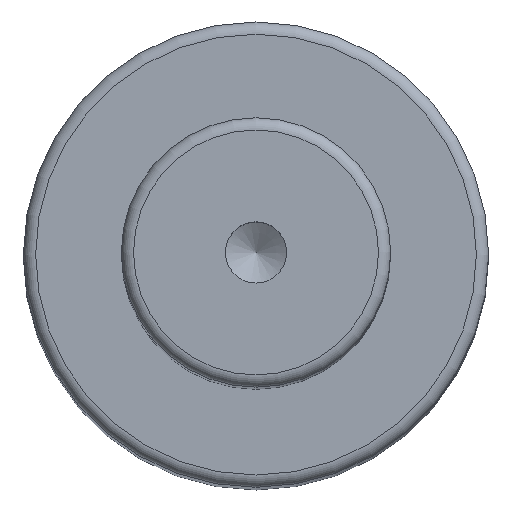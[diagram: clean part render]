
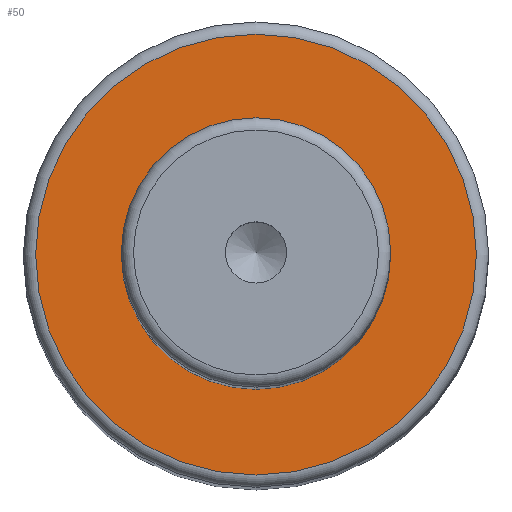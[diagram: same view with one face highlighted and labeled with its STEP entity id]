
A CAD part, top view. The second image highlights one B-rep face of the part: STEP entity #50.
In plain terms, the highlighted planar face has unit normal (0, 0, 1).
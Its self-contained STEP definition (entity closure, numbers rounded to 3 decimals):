
#40=PLANE('',#179);
#50=ADVANCED_FACE('',(#72,#73),#40,.F.);
#72=FACE_BOUND('',#96,.T.);
#73=FACE_BOUND('',#97,.T.);
#96=EDGE_LOOP('',(#118));
#97=EDGE_LOOP('',(#119));
#118=ORIENTED_EDGE('',*,*,#149,.F.);
#119=ORIENTED_EDGE('',*,*,#148,.T.);
#135=VERTEX_POINT('',#256);
#136=VERTEX_POINT('',#259);
#148=EDGE_CURVE('',#135,#135,#159,.T.);
#149=EDGE_CURVE('',#136,#136,#160,.T.);
#159=CIRCLE('',#176,11.);
#160=CIRCLE('',#178,18.);
#176=AXIS2_PLACEMENT_3D('',#255,#213,#214);
#178=AXIS2_PLACEMENT_3D('',#258,#217,#218);
#179=AXIS2_PLACEMENT_3D('',#260,#219,#220);
#213=DIRECTION('',(0.,0.,-1.));
#214=DIRECTION('',(-1.,0.,0.));
#217=DIRECTION('',(0.,0.,-1.));
#218=DIRECTION('',(-1.,0.,0.));
#219=DIRECTION('',(0.,0.,-1.));
#220=DIRECTION('',(-1.,0.,0.));
#255=CARTESIAN_POINT('',(0.,0.,129.));
#256=CARTESIAN_POINT('',(-11.,0.,129.));
#258=CARTESIAN_POINT('',(0.,0.,129.));
#259=CARTESIAN_POINT('',(-18.,0.,129.));
#260=CARTESIAN_POINT('',(11.,0.,129.));
